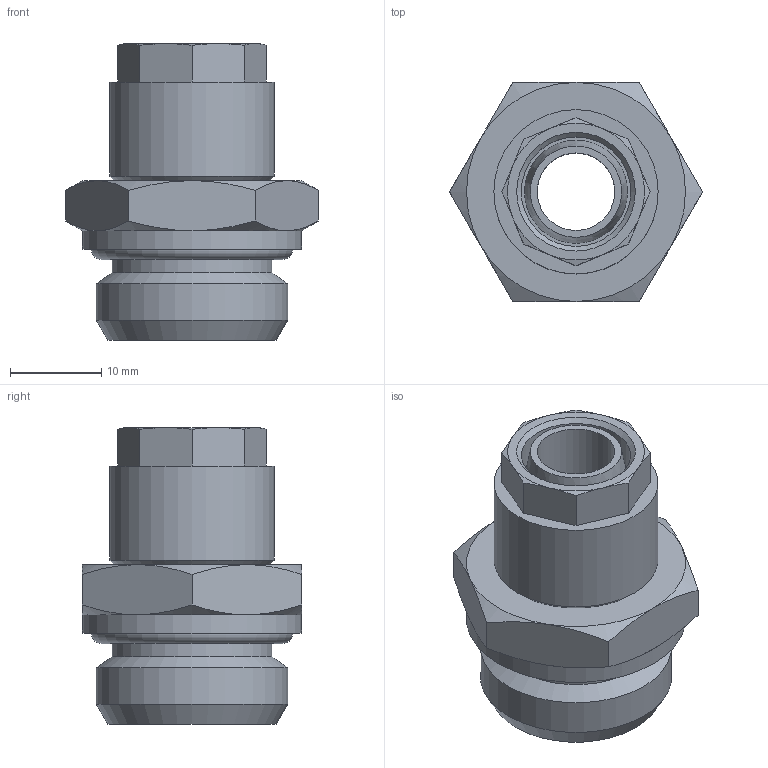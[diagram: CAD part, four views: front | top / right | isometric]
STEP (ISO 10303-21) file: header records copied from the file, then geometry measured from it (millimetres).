
FILE_DESCRIPTION(/* description */ (''),/* implementation_level */ '2;1');
FILE_NAME(/* name */ '10220_301Z_1210_12_15.09.15',/* time_stamp */ '2015-09-15T10:30:00+02:00',/* author */ (''),/* organization */ (''),/* preprocessor_version */ 'ST-DEVELOPER v14',/* originating_system */ 'HiCAD 2013 1802.4 Build 509',/* authorisation */ '');
FILE_SCHEMA (('AUTOMOTIVE_DESIGN { 1 0 10303 214 1 1 1 1 }'));
Length unit declared in the file: millimetre
Products named in the file (4): Root; 17008; R10220; OR 17.12X2.62
Assembly tree (3 placements, depth 2):
  Root
    17008
    R10220
    OR 17.12X2.62
Bounding box: 27.71 x 24 x 32.5 mm (x, y, z)
Volume: 6967.9 mm3; surface area: 6079.7 mm2
Topology: 3 solids, 3 shells, 71 faces, 156 edges, 96 vertices
Faces by surface type: cone 32, plane 24, cylinder 11, torus 4
Full cylindrical faces by diameter (mm): 8.5 x1, 10.5 x1, 12 x1, 14 x1, 14.5 x1, 14.73 x1, 16 x1, 17.5 x1, 18 x1, 20.955 x1, 24 x1
Entity records: 2969 total; most frequent: DIRECTION 364, CARTESIAN_POINT 276, PRESENTATION_STYLE_ASSIGNMENT 235, COLOUR_RGB 234, DRAUGHTING_PRE_DEFINED_CURVE_FONT 232, CURVE_STYLE 232, OVER_RIDING_STYLED_ITEM 232, ORIENTED_EDGE 232
